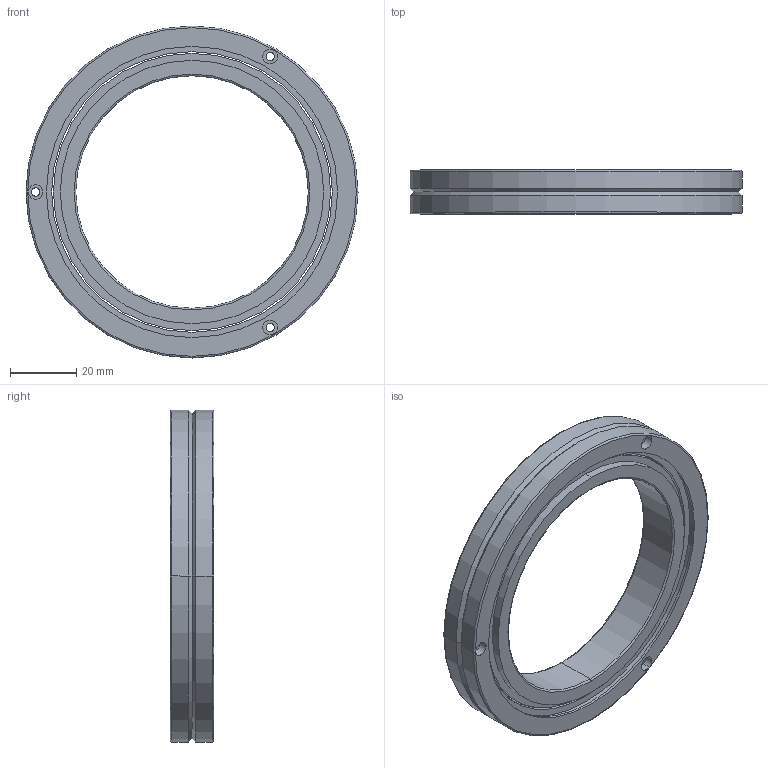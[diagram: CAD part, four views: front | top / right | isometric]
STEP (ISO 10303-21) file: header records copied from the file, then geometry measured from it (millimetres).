
FILE_DESCRIPTION((''),'2;1');
FILE_NAME('RB7013','2014-12-13T',('Administrator'),(''),'PRO/ENGINEER BY PARAMETRIC TECHNOLOGY CORPORATION, 2010180','PRO/ENGINEER BY PARAMETRIC TECHNOLOGY CORPORATION, 2010180','');
FILE_SCHEMA(('AUTOMOTIVE_DESIGN_CC2 { 1 2 10303 214 -1 1 5 2 }'));
Length unit declared in the file: millimetre
Products named in the file (1): RB7013
Bounding box: 100 x 13.2 x 100 mm (x, y, z)
Volume: 41307.4 mm3; surface area: 23758.6 mm2
Topology: 2 solids, 2 shells, 80 faces, 166 edges, 102 vertices
Faces by surface type: cylinder 44, plane 16, cone 12, torus 8
Entity records: 2263 total; most frequent: DIRECTION 436, CARTESIAN_POINT 348, ORIENTED_EDGE 332, AXIS2_PLACEMENT_3D 190, EDGE_CURVE 166, CIRCLE 110, VERTEX_POINT 102, EDGE_LOOP 102
